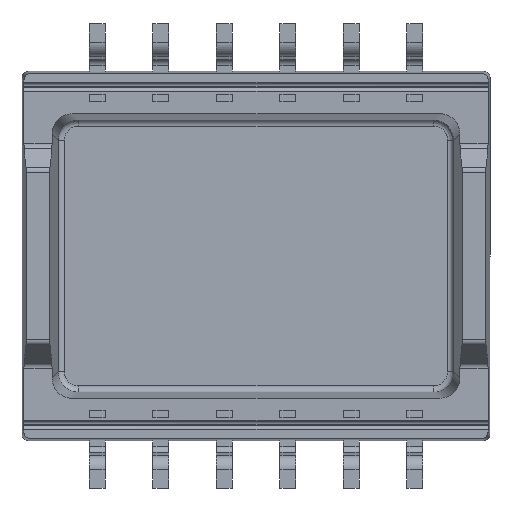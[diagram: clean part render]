
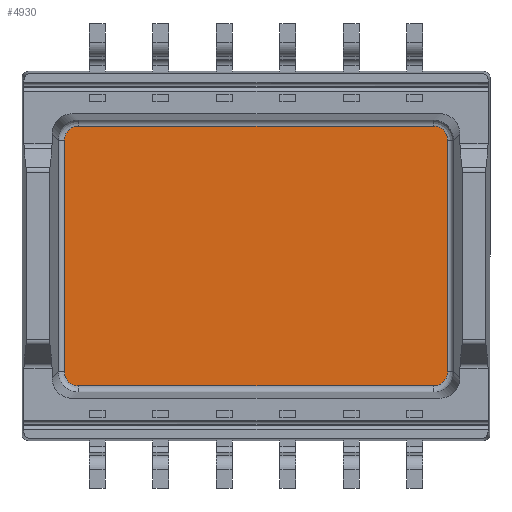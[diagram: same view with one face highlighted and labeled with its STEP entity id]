
A CAD part, front view. The second image highlights one B-rep face of the part: STEP entity #4930.
In plain terms, the highlighted planar face has unit normal (0, -1, 0).
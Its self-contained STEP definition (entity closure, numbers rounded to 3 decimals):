
#77 = CARTESIAN_POINT ( 'NONE',  ( 6.062, 2.05, 3.927 ) ) ;
#82 = DIRECTION ( 'NONE',  ( 1., 0., 0. ) ) ;
#105 = CARTESIAN_POINT ( 'NONE',  ( 6.062, 2.05, -3.663 ) ) ;
#117 = CARTESIAN_POINT ( 'NONE',  ( 6.062, 2.05, 3.663 ) ) ;
#135 = LINE ( 'NONE', #4591, #4966 ) ;
#218 = CARTESIAN_POINT ( 'NONE',  ( -5.613, 2.05, -4.112 ) ) ;
#231 = CARTESIAN_POINT ( 'NONE',  ( 6.062, 2.05, -3.663 ) ) ;
#246 = EDGE_CURVE ( 'NONE', #4525, #5846, #3367, .T. ) ;
#695 = CARTESIAN_POINT ( 'NONE',  ( 6.062, 2.05, 3.663 ) ) ;
#730 = ORIENTED_EDGE ( 'NONE', *, *, #6451, .T. ) ;
#734 = CARTESIAN_POINT ( 'NONE',  ( 5.877, 2.05, -4.112 ) ) ;
#790 = VERTEX_POINT ( 'NONE', #6543 ) ;
#847 = CARTESIAN_POINT ( 'NONE',  ( -5.6, 2.05, 4.112 ) ) ;
#869 = CARTESIAN_POINT ( 'NONE',  ( -6.062, 2.05, -3.927 ) ) ;
#877 = CARTESIAN_POINT ( 'NONE',  ( -5.877, 2.05, 4.112 ) ) ;
#1113 = AXIS2_PLACEMENT_3D ( 'NONE', #1157, #2841, #5686 ) ;
#1157 = CARTESIAN_POINT ( 'NONE',  ( 0., 2.05, 0. ) ) ;
#1724 = VERTEX_POINT ( 'NONE', #1981 ) ;
#1829 = CARTESIAN_POINT ( 'NONE',  ( 5.613, 2.05, 4.112 ) ) ;
#1836 =( BOUNDED_CURVE ( )  B_SPLINE_CURVE ( 3, ( #4203, #869, #3108, #5332 ),
 .UNSPECIFIED., .F., .F. ) 
 B_SPLINE_CURVE_WITH_KNOTS ( ( 4, 4 ),
 ( 2.359, 3.925 ),
 .UNSPECIFIED. ) 
 CURVE ( )  GEOMETRIC_REPRESENTATION_ITEM ( )  RATIONAL_B_SPLINE_CURVE ( ( 1., 0.806, 0.806, 1. ) ) 
 REPRESENTATION_ITEM ( '' )  );
#1845 = LINE ( 'NONE', #847, #5452 ) ;
#1903 = DIRECTION ( 'NONE',  ( 0., 0., 1. ) ) ;
#1981 = CARTESIAN_POINT ( 'NONE',  ( 5.613, 2.05, -4.112 ) ) ;
#2154 = ORIENTED_EDGE ( 'NONE', *, *, #3102, .T. ) ;
#2232 = VERTEX_POINT ( 'NONE', #2997 ) ;
#2253 = EDGE_CURVE ( 'NONE', #2481, #4525, #2598, .T. ) ;
#2304 =( BOUNDED_CURVE ( )  B_SPLINE_CURVE ( 3, ( #5705, #734, #4065, #231 ),
 .UNSPECIFIED., .F., .F. ) 
 B_SPLINE_CURVE_WITH_KNOTS ( ( 4, 4 ),
 ( 2.359, 3.925 ),
 .UNSPECIFIED. ) 
 CURVE ( )  GEOMETRIC_REPRESENTATION_ITEM ( )  RATIONAL_B_SPLINE_CURVE ( ( 1., 0.806, 0.806, 1. ) ) 
 REPRESENTATION_ITEM ( '' )  );
#2481 = VERTEX_POINT ( 'NONE', #105 ) ;
#2582 = LINE ( 'NONE', #7023, #5572 ) ;
#2598 = LINE ( 'NONE', #4818, #3094 ) ;
#2643 = CARTESIAN_POINT ( 'NONE',  ( -6.062, 2.05, 3.927 ) ) ;
#2841 = DIRECTION ( 'NONE',  ( 0., 1., 0. ) ) ;
#2882 = FACE_OUTER_BOUND ( 'NONE', #7006, .T. ) ;
#2925 = CARTESIAN_POINT ( 'NONE',  ( 5.877, 2.05, 4.112 ) ) ;
#2930 = EDGE_CURVE ( 'NONE', #1724, #2481, #2304, .T. ) ;
#2997 = CARTESIAN_POINT ( 'NONE',  ( -5.613, 2.05, 4.112 ) ) ;
#3094 = VECTOR ( 'NONE', #1903, 1000. ) ;
#3102 = EDGE_CURVE ( 'NONE', #2232, #4877, #3838, .T. ) ;
#3108 = CARTESIAN_POINT ( 'NONE',  ( -5.877, 2.05, -4.112 ) ) ;
#3367 =( BOUNDED_CURVE ( )  B_SPLINE_CURVE ( 3, ( #695, #77, #2925, #1829 ),
 .UNSPECIFIED., .F., .F. ) 
 B_SPLINE_CURVE_WITH_KNOTS ( ( 4, 4 ),
 ( 2.359, 3.925 ),
 .UNSPECIFIED. ) 
 CURVE ( )  GEOMETRIC_REPRESENTATION_ITEM ( )  RATIONAL_B_SPLINE_CURVE ( ( 1., 0.806, 0.806, 1. ) ) 
 REPRESENTATION_ITEM ( '' )  );
#3551 = EDGE_CURVE ( 'NONE', #790, #5656, #1836, .T. ) ;
#3838 =( BOUNDED_CURVE ( )  B_SPLINE_CURVE ( 3, ( #5407, #877, #2643, #5871 ),
 .UNSPECIFIED., .F., .F. ) 
 B_SPLINE_CURVE_WITH_KNOTS ( ( 4, 4 ),
 ( 2.359, 3.925 ),
 .UNSPECIFIED. ) 
 CURVE ( )  GEOMETRIC_REPRESENTATION_ITEM ( )  RATIONAL_B_SPLINE_CURVE ( ( 1., 0.806, 0.806, 1. ) ) 
 REPRESENTATION_ITEM ( '' )  );
#4020 = ORIENTED_EDGE ( 'NONE', *, *, #2930, .T. ) ;
#4041 = ORIENTED_EDGE ( 'NONE', *, *, #4484, .T. ) ;
#4060 = ORIENTED_EDGE ( 'NONE', *, *, #5480, .T. ) ;
#4065 = CARTESIAN_POINT ( 'NONE',  ( 6.062, 2.05, -3.927 ) ) ;
#4203 = CARTESIAN_POINT ( 'NONE',  ( -6.062, 2.05, -3.663 ) ) ;
#4384 = ORIENTED_EDGE ( 'NONE', *, *, #3551, .T. ) ;
#4484 = EDGE_CURVE ( 'NONE', #5656, #1724, #2582, .T. ) ;
#4525 = VERTEX_POINT ( 'NONE', #117 ) ;
#4591 = CARTESIAN_POINT ( 'NONE',  ( -6.062, 2.05, -3.65 ) ) ;
#4725 = DIRECTION ( 'NONE',  ( -1., 0., 0. ) ) ;
#4813 = CARTESIAN_POINT ( 'NONE',  ( 5.613, 2.05, 4.112 ) ) ;
#4818 = CARTESIAN_POINT ( 'NONE',  ( 6.062, 2.05, 3.65 ) ) ;
#4877 = VERTEX_POINT ( 'NONE', #5540 ) ;
#4930 = ADVANCED_FACE ( 'NONE', ( #2882 ), #6302, .F. ) ;
#4966 = VECTOR ( 'NONE', #6809, 1000. ) ;
#5332 = CARTESIAN_POINT ( 'NONE',  ( -5.613, 2.05, -4.112 ) ) ;
#5407 = CARTESIAN_POINT ( 'NONE',  ( -5.613, 2.05, 4.112 ) ) ;
#5452 = VECTOR ( 'NONE', #4725, 1000. ) ;
#5480 = EDGE_CURVE ( 'NONE', #4877, #790, #135, .T. ) ;
#5540 = CARTESIAN_POINT ( 'NONE',  ( -6.062, 2.05, 3.663 ) ) ;
#5572 = VECTOR ( 'NONE', #82, 1000. ) ;
#5656 = VERTEX_POINT ( 'NONE', #218 ) ;
#5686 = DIRECTION ( 'NONE',  ( 0., 0., 1. ) ) ;
#5705 = CARTESIAN_POINT ( 'NONE',  ( 5.613, 2.05, -4.112 ) ) ;
#5846 = VERTEX_POINT ( 'NONE', #4813 ) ;
#5871 = CARTESIAN_POINT ( 'NONE',  ( -6.062, 2.05, 3.663 ) ) ;
#5991 = ORIENTED_EDGE ( 'NONE', *, *, #2253, .T. ) ;
#6302 = PLANE ( 'NONE',  #1113 ) ;
#6451 = EDGE_CURVE ( 'NONE', #5846, #2232, #1845, .T. ) ;
#6543 = CARTESIAN_POINT ( 'NONE',  ( -6.062, 2.05, -3.663 ) ) ;
#6728 = ORIENTED_EDGE ( 'NONE', *, *, #246, .T. ) ;
#6809 = DIRECTION ( 'NONE',  ( 0., 0., -1. ) ) ;
#7006 = EDGE_LOOP ( 'NONE', ( #4060, #4384, #4041, #4020, #5991, #6728, #730, #2154 ) ) ;
#7023 = CARTESIAN_POINT ( 'NONE',  ( 5.6, 2.05, -4.112 ) ) ;
